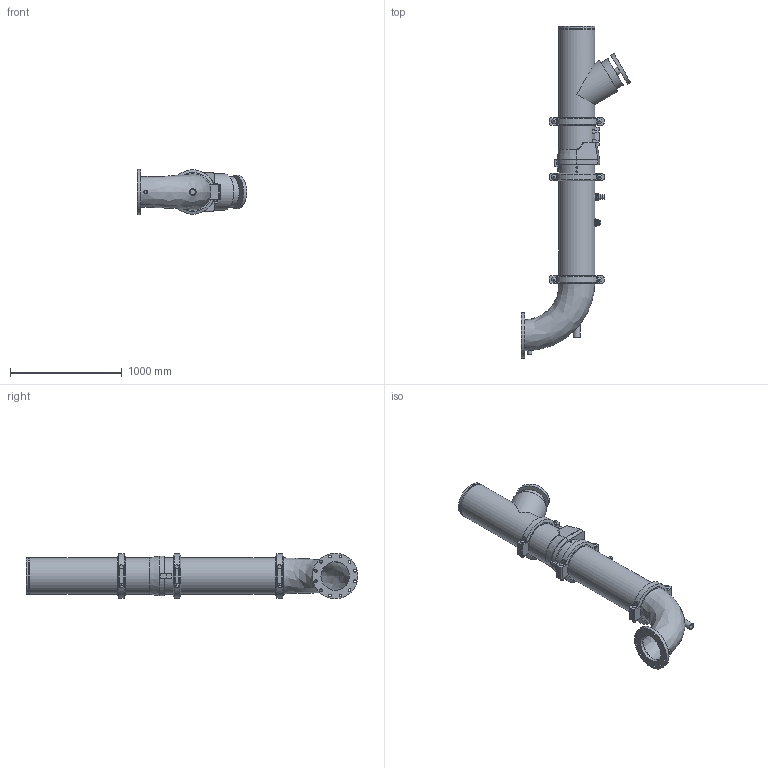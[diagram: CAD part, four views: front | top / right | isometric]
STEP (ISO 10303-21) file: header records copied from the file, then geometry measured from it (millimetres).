
FILE_DESCRIPTION(/* description */ ('VIC DVI PUMP DROP HORZ S/383 (OGSxFLG) (S/924-0.75)','CAx-IF Rec.Pracs.---Representation and Presentation of Product Manufacturing Information (PMI)---4.0---2014-10-13'),/* implementation_level */ '2;1');
FILE_NAME(/* name */ 'C:\Users\Vjadhav\AppData\Roaming\Autodesk\ApplicationPlugins\Victaulic.Temp\A892\Victaulic_IPS_Horizontal DVI_CL 150_Series 383 (OGSxFLG)_924 (0.75)_12.0x10.0 (300x250).stp',/* time_stamp */ '2022-02-28T15:46:17+05:00',/* author */ ('kkamble'),/* organization */ ('Victaulic'),/* preprocessor_version */ 'ST-DEVELOPER v17.2',/* originating_system */ 'Autodesk Inventor 2019',/* authorisation */ '');
FILE_SCHEMA (('AP242_MANAGED_MODEL_BASED_3D_ENGINEERING_MIM_LF { 1 0 10303 442 1 1 4 }'));
Length unit declared in the file: inch
Products named in the file (8): 383-924 (0.75)-12.0x10.0; Pipe-12.0; 789-12.0; 779-12.0; 924-10.0x0.75; 923-10.0x0.75; R100F-12.0x10.0; 077-12.0
Assembly tree (9 placements, depth 2):
  383-924 (0.75)-12.0x10.0
    Pipe-12.0
    789-12.0
    779-12.0
    077-12.0  x3
    924-10.0x0.75
    923-10.0x0.75
    R100F-12.0x10.0
Bounding box: 977.9 x 2965.45 x 406.4 mm (x, y, z)
Volume: 66856361 mm3; surface area: 7794400.9 mm2
Topology: 9 solids, 15 shells, 439 faces, 1090 edges, 746 vertices
Faces by surface type: plane 257, cylinder 147, cone 17, bspline 12, torus 6
Full cylindrical faces by diameter (mm): 13.716 x4, 21.336 x1, 25.4 x24, 26.67 x3, 27.432 x6, 34.29 x1, 38.608 x1, 45.974 x4, 48.26 x1, 55.626 x2, 60.96 x2, 76.2 x1, 254.508 x1, 273.05 x1, 299.974 x1, 303.225 x2, 304.8 x2, 314.96 x3, 318.287 x7, 323.85 x18, 406.4 x1
Entity records: 12005 total; most frequent: CARTESIAN_POINT 3340, DIRECTION 1763, ORIENTED_EDGE 1600, EDGE_CURVE 800, AXIS2_PLACEMENT_3D 681, VERTEX_POINT 550, EDGE_LOOP 406, LINE 401
